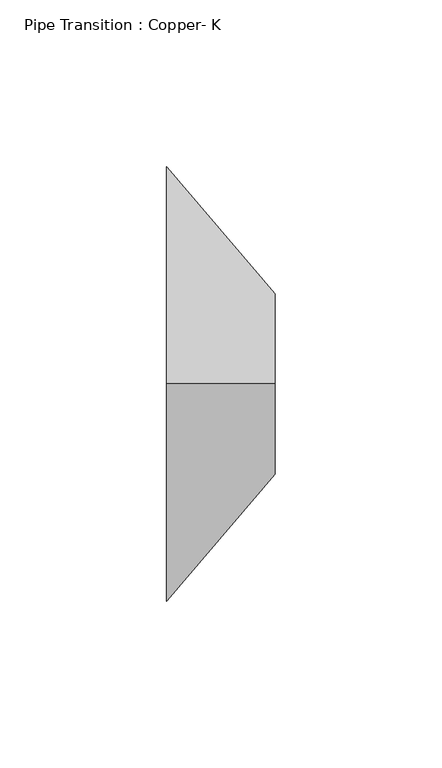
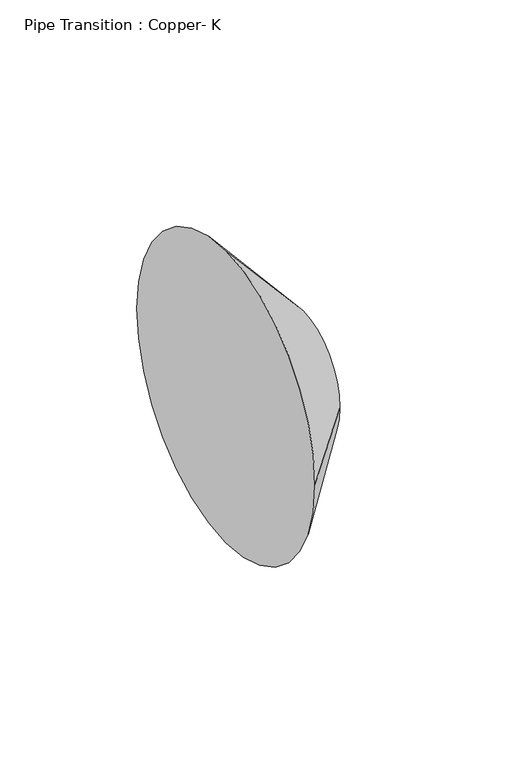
"""IFC4 building model written with IfcOpenShell, lengths in millimetres: pipe fitting geometry, Pipe Transition : Copper- K."""

from ifc_helpers import new_model, si_unit, frame, origin, place, context, project, spatial, polyline, circle_curve, source, transform, mapped, element, save
from ifc_brep_helpers import plane_surface, revolved_surface, advanced_brep


def pipe_transition_copper_k_2f557555(model_context):
    return source(origin(), model_context, "Body", "AdvancedBrep", [
        advanced_brep(
        [(32.54375, 0.0, 26.9875), (32.54375, -26.9875, 0.0), (32.54375, 0.0, -26.9875), (32.54375, 26.9875, 0.0), (0.0, 0.0, 65.0875), (0.0, 65.0875, 0.0), (0.0, 0.0, -65.0875), (0.0, -65.0875, 0.0)],
        [
            (0, 1, circle_curve(frame((32.54375, 0.0, 0.0), z_axis=(1.0, 0.0, 0.0), x_axis=(0.0, 0.0, 1.0)), 26.9875)),
            (1, 2, circle_curve(frame((32.54375, 0.0, 0.0), z_axis=(1.0, 0.0, 0.0), x_axis=(0.0, -1.0, 0.0)), 26.9875)),
            (2, 3, circle_curve(frame((32.54375, 0.0, 0.0), z_axis=(1.0, 0.0, 0.0), x_axis=(0.0, 0.0, -1.0)), 26.9875)),
            (3, 0, circle_curve(frame((32.54375, 0.0, 0.0), z_axis=(1.0, 0.0, 0.0), x_axis=(0.0, 1.0, 0.0)), 26.9875)),
            (4, 5, circle_curve(frame((0.0, 0.0, 0.0), z_axis=(-1.0, 0.0, 0.0), x_axis=(0.0, 1.0, 0.0)), 65.0875)),
            (5, 6, circle_curve(frame((0.0, 0.0, 0.0), z_axis=(-1.0, 0.0, 0.0), x_axis=(0.0, 0.0, -1.0)), 65.0875)),
            (6, 7, circle_curve(frame((0.0, 0.0, 0.0), z_axis=(-1.0, 0.0, 0.0), x_axis=(0.0, -1.0, 0.0)), 65.0875)),
            (7, 4, circle_curve(frame((0.0, 0.0, 0.0), z_axis=(-1.0, 0.0, 0.0), x_axis=(0.0, 0.0, 1.0)), 65.0875)),
            (7, 1),
            (0, 4),
            (6, 2),
            (5, 3),
        ],
        [
            plane_surface(frame((32.54375, 0.0, 0.0), z_axis=(1.0, 0.0, 0.0), x_axis=(0.0, -1.0, 0.0))),
            plane_surface(frame((0.0, 0.0, 0.0), z_axis=(-1.0, 0.0, 0.0), x_axis=(0.0, -1.0, 0.0))),
            revolved_surface(polyline([(32.54375, 0.0, 26.987499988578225), (0.0, 0.0, 65.0875)]), (55.5955729, 0.0, 0.0), (-1.0, 0.0, 0.0)),
            revolved_surface(polyline([(32.54375, -26.987499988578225, 0.0), (0.0, -65.0875, 0.0)]), (55.5955729, 0.0, 0.0), (-1.0, 0.0, 0.0)),
            revolved_surface(polyline([(32.54375, 0.0, -26.987499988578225), (0.0, 0.0, -65.0875)]), (55.5955729, 0.0, 0.0), (-1.0, 0.0, 0.0)),
            revolved_surface(polyline([(32.54375, 26.987499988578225, 0.0), (0.0, 65.0875, 0.0)]), (55.5955729, 0.0, 0.0), (-1.0, 0.0, 0.0)),
        ],
        [
            (0, [[1, 2, 3, 4]]),
            (1, [[5, 6, 7, 8]]),
            (2, [[-8, 9, -1, 10]]),
            (3, [[-7, 11, -2, -9]]),
            (4, [[-6, 12, -3, -11]]),
            (5, [[-5, -10, -4, -12]]),
        ],
    ),
        advanced_brep(
        [(32.54375, 0.0, 26.9875), (32.54375, -26.9875, 0.0), (32.54375, 0.0, -26.9875), (32.54375, 26.9875, 0.0), (0.0, 0.0, 65.0875), (0.0, 65.0875, 0.0), (0.0, 0.0, -65.0875), (0.0, -65.0875, 0.0)],
        [
            (0, 1, circle_curve(frame((32.54375, 0.0, 0.0), z_axis=(1.0, 0.0, 0.0), x_axis=(0.0, 0.0, 1.0)), 26.9875)),
            (1, 2, circle_curve(frame((32.54375, 0.0, 0.0), z_axis=(1.0, 0.0, 0.0), x_axis=(0.0, -1.0, 0.0)), 26.9875)),
            (2, 3, circle_curve(frame((32.54375, 0.0, 0.0), z_axis=(1.0, 0.0, 0.0), x_axis=(0.0, 0.0, -1.0)), 26.9875)),
            (3, 0, circle_curve(frame((32.54375, 0.0, 0.0), z_axis=(1.0, 0.0, 0.0), x_axis=(0.0, 1.0, 0.0)), 26.9875)),
            (4, 5, circle_curve(frame((0.0, 0.0, 0.0), z_axis=(-1.0, 0.0, 0.0), x_axis=(0.0, 1.0, 0.0)), 65.0875)),
            (5, 6, circle_curve(frame((0.0, 0.0, 0.0), z_axis=(-1.0, 0.0, 0.0), x_axis=(0.0, 0.0, -1.0)), 65.0875)),
            (6, 7, circle_curve(frame((0.0, 0.0, 0.0), z_axis=(-1.0, 0.0, 0.0), x_axis=(0.0, -1.0, 0.0)), 65.0875)),
            (7, 4, circle_curve(frame((0.0, 0.0, 0.0), z_axis=(-1.0, 0.0, 0.0), x_axis=(0.0, 0.0, 1.0)), 65.0875)),
            (7, 1),
            (0, 4),
            (6, 2),
            (5, 3),
        ],
        [
            plane_surface(frame((32.54375, 0.0, 0.0), z_axis=(1.0, 0.0, 0.0), x_axis=(0.0, -1.0, 0.0))),
            plane_surface(frame((0.0, 0.0, 0.0), z_axis=(-1.0, 0.0, 0.0), x_axis=(0.0, -1.0, 0.0))),
            revolved_surface(polyline([(32.54375, 0.0, 26.987499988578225), (0.0, 0.0, 65.0875)]), (55.5955729, 0.0, 0.0), (-1.0, 0.0, 0.0)),
            revolved_surface(polyline([(32.54375, -26.987499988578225, 0.0), (0.0, -65.0875, 0.0)]), (55.5955729, 0.0, 0.0), (-1.0, 0.0, 0.0)),
            revolved_surface(polyline([(32.54375, 0.0, -26.987499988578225), (0.0, 0.0, -65.0875)]), (55.5955729, 0.0, 0.0), (-1.0, 0.0, 0.0)),
            revolved_surface(polyline([(32.54375, 26.987499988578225, 0.0), (0.0, 65.0875, 0.0)]), (55.5955729, 0.0, 0.0), (-1.0, 0.0, 0.0)),
        ],
        [
            (0, [[1, 2, 3, 4]]),
            (1, [[5, 6, 7, 8]]),
            (2, [[-8, 9, -1, 10]]),
            (3, [[-7, 11, -2, -9]]),
            (4, [[-6, 12, -3, -11]]),
            (5, [[-5, -10, -4, -12]]),
        ],
    ),
    ])


if __name__ == "__main__":
    model = new_model("IFC4")
    model_context = context("Model", 3, world=origin())
    ifc_project = project(units=[si_unit("LENGTHUNIT", "METRE", prefix="MILLI")], contexts=[model_context])
    site = spatial("IfcSite", under=ifc_project)
    building = spatial("IfcBuilding", under=site)
    placement = place(None, origin())
    pipe_transition_copper_k_shape = pipe_transition_copper_k_2f557555(model_context)
    element("IfcPipeFitting", 1, ObjectType="Pipe Transition : Copper- K", at=placement, inside=building, context=model_context, shape_type="MappedRepresentation", body=[
        mapped(pipe_transition_copper_k_shape, transform((0.0, 0.0, 0.0), x_axis=(1.0, 0.0, 0.0), y_axis=(0.0, 1.0, 0.0), z_axis=(0.0, 0.0, 1.0))),
    ])
    save(model, "model.ifc")
